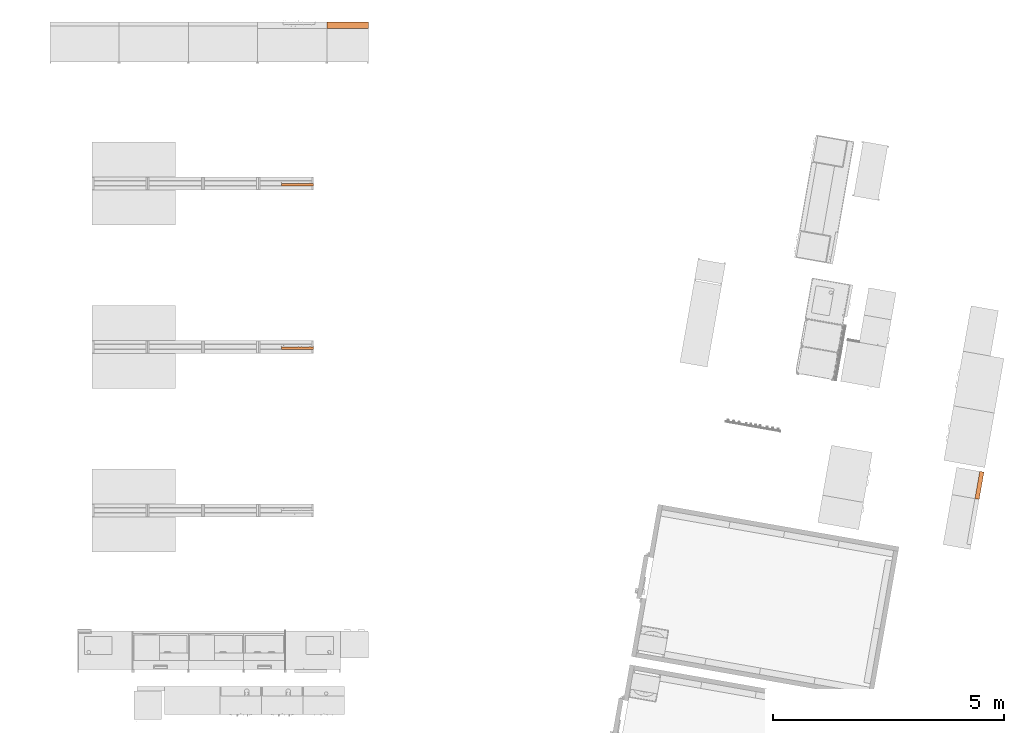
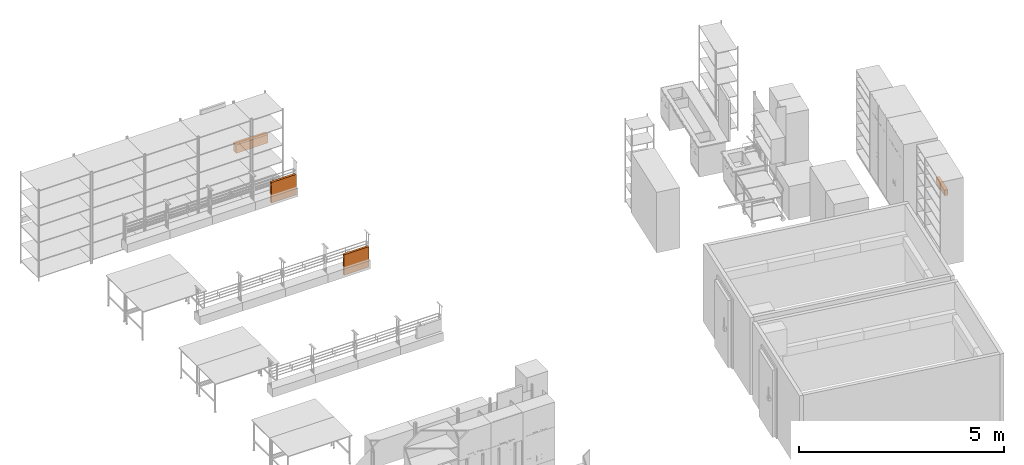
# One storey, part 22 of 32: 4 proxies.
"""IFC2X3 building model written with IfcOpenShell, lengths in metres."""

from ifc_helpers import new_model, entity, si_unit, converted_unit, derived_unit, direction, frame, frame_2d, origin, origin_2d_with_axis, place, context, subcontext, project, spatial, rectangle, extrude, face_set, surface_model, source, transform, mapped, material, material_list, type_object, type_shapes, element, save


model = new_model("IFC2X3")

# Units and contexts
model_context = context("Model", 3, precision=1e-05, world=origin(), true_north=direction((6.12303176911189e-17, 1.0)))
body_context = subcontext(model_context, "Body", "Model", "MODEL_VIEW")
ifc_project = project(units=[si_unit("LENGTHUNIT", "METRE"), si_unit("AREAUNIT", "SQUARE_METRE"), si_unit("VOLUMEUNIT", "CUBIC_METRE"), converted_unit("PLANEANGLEUNIT", "DEGREE", entity("IfcRatioMeasure", 0.0174532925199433), si_unit("PLANEANGLEUNIT", "RADIAN"), dimensions=[0, 0, 0, 0, 0, 0, 0]), si_unit("MASSUNIT", "GRAM", prefix="KILO"), derived_unit("MASSDENSITYUNIT", [(si_unit("MASSUNIT", "GRAM", prefix="KILO"), 1), (si_unit("LENGTHUNIT", "METRE"), -3)]), derived_unit("MOMENTOFINERTIAUNIT", [(si_unit("LENGTHUNIT", "METRE"), 4)]), si_unit("TIMEUNIT", "SECOND"), si_unit("FREQUENCYUNIT", "HERTZ"), si_unit("THERMODYNAMICTEMPERATUREUNIT", "DEGREE_CELSIUS"), derived_unit("THERMALTRANSMITTANCEUNIT", [(si_unit("MASSUNIT", "GRAM", prefix="KILO"), 1), (si_unit("THERMODYNAMICTEMPERATUREUNIT", "KELVIN"), -1), (si_unit("TIMEUNIT", "SECOND"), -3)]), derived_unit("VOLUMETRICFLOWRATEUNIT", [(si_unit("LENGTHUNIT", "METRE"), 3), (si_unit("TIMEUNIT", "SECOND"), -1)]), si_unit("ELECTRICCURRENTUNIT", "AMPERE"), si_unit("ELECTRICVOLTAGEUNIT", "VOLT"), si_unit("POWERUNIT", "WATT"), si_unit("FORCEUNIT", "NEWTON", prefix="KILO"), si_unit("ILLUMINANCEUNIT", "LUX"), si_unit("LUMINOUSFLUXUNIT", "LUMEN"), si_unit("LUMINOUSINTENSITYUNIT", "CANDELA"), derived_unit("USERDEFINED", [(si_unit("MASSUNIT", "GRAM", prefix="KILO"), -1), (si_unit("LENGTHUNIT", "METRE"), -2), (si_unit("TIMEUNIT", "SECOND"), 3), (si_unit("LUMINOUSFLUXUNIT", "LUMEN"), 1)]), derived_unit("LINEARVELOCITYUNIT", [(si_unit("LENGTHUNIT", "METRE"), 1), (si_unit("TIMEUNIT", "SECOND"), -1)]), si_unit("PRESSUREUNIT", "PASCAL"), derived_unit("USERDEFINED", [(si_unit("LENGTHUNIT", "METRE"), -2), (si_unit("MASSUNIT", "GRAM", prefix="KILO"), 1), (si_unit("TIMEUNIT", "SECOND"), -2)]), derived_unit("LINEARFORCEUNIT", [(si_unit("MASSUNIT", "GRAM", prefix="KILO"), 1), (si_unit("LENGTHUNIT", "METRE"), 1), (si_unit("TIMEUNIT", "SECOND"), -2), (si_unit("LENGTHUNIT", "METRE"), -1)]), derived_unit("PLANARFORCEUNIT", [(si_unit("MASSUNIT", "GRAM", prefix="KILO"), 1), (si_unit("LENGTHUNIT", "METRE"), 1), (si_unit("TIMEUNIT", "SECOND"), -2), (si_unit("LENGTHUNIT", "METRE"), -2)])], contexts=[model_context])

# Site, building, storey
site_placement = place(None, origin())
site = spatial("IfcSite", under=ifc_project, at=site_placement, Name="Default", CompositionType="ELEMENT")
building_placement = place(site_placement, origin())
building = spatial("IfcBuilding", under=site, at=building_placement, CompositionType="ELEMENT")
storey_placement = place(building_placement, origin())
storey = spatial("IfcBuildingStorey", under=building, at=storey_placement, Name="00 EG", CompositionType="ELEMENT", Elevation=0.0)

# Proxies
ifc_material_1 = material(Name="dh_Weiß")
building_element_proxy_type_1 = type_object("IfcBuildingElementProxyType", Name="dh_Einzel_ Elektrokanal:EK 60", PredefinedType="NOTDEFINED", material=ifc_material_1)
shared_shape_1 = source(origin(), body_context, "Body", "SweptSolid", [
    extrude(rectangle(XDim=0.600000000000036, YDim=0.093, at=frame_2d((-1.41553435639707e-15, -1.73472347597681e-17), x_axis=(1.0, 0.0))), frame((-0.299999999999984, 0.2535, 1.24999999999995)), (0.0, 0.0, 1.0), 0.00499999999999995),
    extrude(rectangle(XDim=0.093, YDim=0.600000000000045, at=frame_2d((0.0155, -2.72004641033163e-15), x_axis=(1.0, 0.0))), frame((-0.299999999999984, 0.269, 1.40999999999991), z_axis=(0.0, 0.0, 1.0), x_axis=(0.0, -1.0, 0.0)), (0.0, 0.0, 1.0), 0.00499999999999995),
    extrude(rectangle(XDim=0.6, YDim=0.093, at=frame_2d((0.0, 1.73472347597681e-17), x_axis=(1.0, 0.0))), frame((-0.3, 0.2535, 1.25499999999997), z_axis=(0.0, 0.0, 1.0), x_axis=(-1.0, 0.0, 0.0)), (0.0, 0.0, 1.0), 0.154999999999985),
])
type_shapes(building_element_proxy_type_1, [shared_shape_1])
proxy_1_placement = place(storey_placement, frame((29.9888502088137, 13.9513028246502, 0.0), z_axis=(0.0, 0.0, 1.0), x_axis=(-0.173648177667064, -0.984807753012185, 0.0)))
element("IfcBuildingElementProxy", 1, at=proxy_1_placement, inside=storey, type_object=building_element_proxy_type_1, material=ifc_material_1, Name="dh_Einzel_ Elektrokanal:EK 60", ObjectType="dh_Einzel_ Elektrokanal:EK 60", context=body_context, shape_type="MappedRepresentation", body=[
    mapped(shared_shape_1, transform((0.0, 0.0, 0.0), scale=1.0)),
])
ifc_material_2 = material(Name="dh_EZ blau")
ifc_material_list_1 = material_list([ifc_material_2, ifc_material_1])
ifc_material_3 = material(Name="dh_Blau")
ifc_material_list_2 = material_list([ifc_material_1, ifc_material_2, ifc_material_3])
building_element_proxy_type_2 = type_object("IfcBuildingElementProxyType", Name="dh_Einzel_ MEK:MEK 90", PredefinedType="NOTDEFINED", material=ifc_material_list_2)
shared_shape_2 = source(origin(), body_context, "Body", "SweptSolid", [
    extrude(rectangle(XDim=0.06, YDim=0.0299999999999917, at=origin_2d_with_axis()), frame((0.285000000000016, 0.33, 1.25499999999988), z_axis=(0.0, 0.0, 1.0), x_axis=(0.0, 1.0, 0.0)), (0.0, 0.0, 1.0), 0.240000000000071),
    extrude(rectangle(XDim=0.06, YDim=0.0299999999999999, at=origin_2d_with_axis()), frame((-0.584999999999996, 0.33, 1.25499999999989), z_axis=(0.0, 0.0, 1.0), x_axis=(0.0, 1.0, 0.0)), (0.0, 0.0, 1.0), 0.240000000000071),
    extrude(rectangle(XDim=0.06, YDim=0.900000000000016, at=origin_2d_with_axis()), frame((-0.149999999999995, 0.33, 1.49499999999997), z_axis=(0.0, 0.0, 1.0), x_axis=(0.0, 1.0, 0.0)), (0.0, 0.0, 1.0), 0.00499999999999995),
    extrude(rectangle(XDim=0.900000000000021, YDim=0.14, at=frame_2d((-2.55351295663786e-15, -0.00333333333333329), x_axis=(1.0, 0.0))), frame((-0.149999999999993, 0.293333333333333, 1.24999999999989)), (0.0, 0.0, 1.0), 0.00499999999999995),
    extrude(rectangle(XDim=0.08, YDim=0.900000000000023, at=frame_2d((0.0133333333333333, 0.0), x_axis=(1.0, 0.0))), frame((-0.149999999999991, 0.273333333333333, 1.49499999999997), z_axis=(0.0, 0.0, 1.0), x_axis=(0.0, -1.0, 0.0)), (0.0, 0.0, 1.0), 0.00499999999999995),
    extrude(rectangle(XDim=0.9, YDim=0.08, at=origin_2d_with_axis()), frame((-0.15, 0.26, 1.25499999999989), z_axis=(0.0, 0.0, 1.0), x_axis=(-1.0, 0.0, 0.0)), (0.0, 0.0, 1.0), 0.24000000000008),
])
type_shapes(building_element_proxy_type_2, [shared_shape_2])
proxy_2_placement = place(storey_placement, frame((16.7500000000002, 23.8839999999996, 0.0)))
element("IfcBuildingElementProxy", 2, at=proxy_2_placement, inside=storey, type_object=building_element_proxy_type_2, material=ifc_material_list_1, Name="dh_Einzel_ MEK:MEK 90", ObjectType="dh_Einzel_ MEK:MEK 90", context=body_context, shape_type="MappedRepresentation", body=[
    mapped(shared_shape_2, transform((0.0, 0.0, 0.0), scale=1.0)),
])
ifc_material_4 = material(Name="dh_Stellfläche")
building_element_proxy_type_3 = type_object("IfcBuildingElementProxyType", Name="dh_Gerät_Stellfläche Bestand:Nutzergerät", PredefinedType="NOTDEFINED", material=ifc_material_4)
shared_shape_3 = source(origin(), body_context, "Body", "SurfaceModel", [
    surface_model("IfcFaceBasedSurfaceModel", [(-0.355113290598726, -0.0453817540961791, 0.615000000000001), (-0.35670056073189, -0.0470458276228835, 0.615000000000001), (-0.346946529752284, -0.0567998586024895, 0.615000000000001), (-0.332277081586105, -0.0616384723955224, 0.615000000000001), (-0.312948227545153, -0.0616384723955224, 0.615000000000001), (-0.298278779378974, -0.0567998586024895, 0.615000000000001), (-0.288166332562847, -0.0466618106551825, 0.615000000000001), (-0.288166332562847, -0.0314547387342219, 0.615000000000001), (-0.29308174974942, -0.0214446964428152, 0.615000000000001), (-0.298073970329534, -0.0163500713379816, 0.615000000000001), (-0.30790480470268, -0.0115114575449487, 0.615000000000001), (-0.336450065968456, -0.00188543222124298, 0.615000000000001), (-0.345692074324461, 0.00295318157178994, 0.615000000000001), (-0.350197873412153, 0.00745898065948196, 0.615000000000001), (-0.354857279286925, 0.0166497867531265, 0.615000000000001), (-0.354857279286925, 0.0255845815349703, 0.615000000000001), (-0.345820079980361, 0.0347241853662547, 0.615000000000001), (-0.331944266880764, 0.0393579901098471, 0.615000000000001), (-0.313204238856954, 0.0393579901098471, 0.615000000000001), (-0.299328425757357, 0.0347241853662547, 0.615000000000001), (-0.290112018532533, 0.0252005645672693, 0.615000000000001), (-0.288447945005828, 0.0268646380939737, 0.615000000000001), (-0.298278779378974, 0.0366186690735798, 0.615000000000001), (-0.312948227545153, 0.041585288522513, 0.615000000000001), (-0.332277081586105, 0.041585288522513, 0.615000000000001), (-0.346946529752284, 0.0366186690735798, 0.615000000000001), (-0.356982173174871, 0.0264550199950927, 0.615000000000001), (-0.356982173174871, 0.016112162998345, 0.615000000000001), (-0.352117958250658, 0.00610212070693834, 0.615000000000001), (-0.347074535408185, 0.00100749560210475, 0.615000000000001), (-0.337243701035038, -0.00383111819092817, 0.615000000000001), (-0.308698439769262, -0.0134571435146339, 0.615000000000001), (-0.299456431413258, -0.0182957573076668, 0.615000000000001), (-0.294950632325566, -0.0228015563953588, 0.615000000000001), (-0.290368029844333, -0.0320691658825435, 0.615000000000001), (-0.290368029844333, -0.0457657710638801, 0.615000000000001), (-0.299328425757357, -0.0549053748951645, 0.615000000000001), (-0.313204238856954, -0.0595647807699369, 0.615000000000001), (-0.331944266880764, -0.0595647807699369, 0.615000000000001), (-0.345820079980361, -0.0549053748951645, 0.615000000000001), (-0.230691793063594, -0.0616384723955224, 0.615000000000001), (-0.230691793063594, -0.0595647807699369, 0.615000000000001), (-0.239908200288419, -0.0595647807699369, 0.615000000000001), (-0.248740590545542, -0.055084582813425, 0.615000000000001), (-0.253399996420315, -0.0413879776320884, 0.615000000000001), (-0.253399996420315, 0.00533408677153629, 0.615000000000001), (-0.235402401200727, 0.00533408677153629, 0.615000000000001), (-0.235402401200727, 0.00745898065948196, 0.615000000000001), (-0.253399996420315, 0.00745898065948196, 0.615000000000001), (-0.253399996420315, 0.0399468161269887, 0.615000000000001), (-0.25557609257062, 0.0399468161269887, 0.615000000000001), (-0.25557609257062, 0.00745898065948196, 0.615000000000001), (-0.268735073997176, 0.00745898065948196, 0.615000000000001), (-0.268735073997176, 0.00533408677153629, 0.615000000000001), (-0.25557609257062, 0.00533408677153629, 0.615000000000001), (-0.25557609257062, -0.0416439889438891, 0.615000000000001), (-0.250660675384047, -0.0566974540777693, 0.615000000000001), (-0.2404458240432, -0.0616384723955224, 0.615000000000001), (-0.201327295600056, -0.0599999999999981, 0.615000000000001), (-0.19920240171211, -0.0599999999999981, 0.615000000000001), (-0.19920240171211, 0.00666534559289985, 0.615000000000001), (-0.201327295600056, 0.00666534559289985, 0.615000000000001), (-0.173294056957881, -0.0922318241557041, 0.615000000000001), (-0.173294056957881, -0.0944079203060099, 0.615000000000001), (-0.163744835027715, -0.0944079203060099, 0.615000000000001), (-0.153581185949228, -0.0893644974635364, 0.615000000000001), (-0.148665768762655, -0.0744390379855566, 0.615000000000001), (-0.148665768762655, 0.00651173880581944, 0.615000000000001), (-0.150867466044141, 0.00651173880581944, 0.615000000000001), (-0.150867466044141, -0.0741574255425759, 0.615000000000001), (-0.155501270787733, -0.087700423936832, 0.615000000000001), (-0.164333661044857, -0.0922318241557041, 0.615000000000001), (-0.100049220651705, -0.0875980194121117, 0.615000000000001), (-0.101175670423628, -0.0895181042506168, 0.615000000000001), (-0.0913448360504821, -0.0944079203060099, 0.615000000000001), (-0.0765473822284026, -0.0944079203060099, 0.615000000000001), (-0.0666397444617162, -0.0895181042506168, 0.615000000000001), (-0.0615963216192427, -0.0843466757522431, 0.615000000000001), (-0.0566809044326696, -0.069728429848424, 0.615000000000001), (-0.0566809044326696, 0.00615332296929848, 0.615000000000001), (-0.0588826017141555, 0.00615332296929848, 0.615000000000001), (-0.0588826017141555, -0.00552079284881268, 0.615000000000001), (-0.0666397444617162, 0.0023387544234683, 0.615000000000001), (-0.0765473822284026, 0.00717736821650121, 0.615000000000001), (-0.0913448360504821, 0.00717736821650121, 0.615000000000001), (-0.101303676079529, 0.0023387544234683, 0.615000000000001), (-0.111057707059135, -0.00756888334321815, 0.615000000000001), (-0.115973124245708, -0.0221871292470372, 0.615000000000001), (-0.115973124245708, -0.0319923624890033, 0.615000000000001), (-0.111057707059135, -0.0465850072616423, 0.615000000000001), (-0.101303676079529, -0.0564926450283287, 0.615000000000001), (-0.0913448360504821, -0.0612544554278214, 0.615000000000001), (-0.0765473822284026, -0.0612544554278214, 0.615000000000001), (-0.0666397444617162, -0.0564926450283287, 0.615000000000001), (-0.0588826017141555, -0.0485818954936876, 0.615000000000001), (-0.0588826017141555, -0.0694724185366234, 0.615000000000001), (-0.0634652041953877, -0.0832970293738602, 0.615000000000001), (-0.0679710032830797, -0.0875980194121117, 0.615000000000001), (-0.077059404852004, -0.0922318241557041, 0.615000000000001), (-0.0908072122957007, -0.0922318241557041, 0.615000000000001), (-0.0588826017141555, -0.0452537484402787, 0.615000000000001), (-0.0679710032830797, -0.0542909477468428, 0.615000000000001), (-0.077059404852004, -0.0588735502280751, 0.615000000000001), (-0.0908072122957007, -0.0588735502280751, 0.615000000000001), (-0.099921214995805, -0.0542909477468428, 0.615000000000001), (-0.10921442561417, -0.0451257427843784, 0.615000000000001), (-0.113797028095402, -0.0312499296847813, 0.615000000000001), (-0.113797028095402, -0.0220079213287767, 0.615000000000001), (-0.10921442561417, -0.00813210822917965, 0.615000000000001), (-0.099921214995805, 0.000956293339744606, 0.615000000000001), (-0.0908072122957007, 0.00561569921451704, 0.615000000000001), (-0.077059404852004, 0.00561569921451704, 0.615000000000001), (-0.0679710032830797, 0.000956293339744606, 0.615000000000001), (-0.0588826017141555, -0.00800410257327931, 0.615000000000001), (-0.0178183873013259, -0.0599999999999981, 0.615000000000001), (-0.0156934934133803, -0.0599999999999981, 0.615000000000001), (-0.0156934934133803, -0.0413367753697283, 0.615000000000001), (0.00230410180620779, -0.0235439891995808, 0.615000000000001), (0.0347919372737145, -0.0599999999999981, 0.615000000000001), (0.0364560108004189, -0.0587455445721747, 0.615000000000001), (0.00376336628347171, -0.0214958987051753, 0.615000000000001), (0.0316685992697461, 0.00625572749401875, 0.615000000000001), (0.0300813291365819, 0.00784299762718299, 0.615000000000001), (-0.0156934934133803, -0.0379574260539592, 0.615000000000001), (-0.0156934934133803, 0.0399468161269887, 0.615000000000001), (-0.0178183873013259, 0.0399468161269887, 0.615000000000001), (0.120146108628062, -0.0469178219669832, 0.615000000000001), (0.125061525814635, -0.0322227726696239, 0.615000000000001), (0.125061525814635, -0.0223663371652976, 0.615000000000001), (0.120146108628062, -0.00767128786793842, 0.615000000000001), (0.110315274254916, 0.00231315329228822, 0.615000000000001), (0.10040763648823, 0.00717736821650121, 0.615000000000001), (0.0856101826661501, 0.00717736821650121, 0.615000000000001), (0.0756513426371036, 0.00231315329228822, 0.615000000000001), (0.0658973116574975, -0.00767128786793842, 0.615000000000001), (0.0609818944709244, -0.0223663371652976, 0.615000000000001), (0.0609818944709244, -0.0322227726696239, 0.615000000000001), (0.0658973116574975, -0.0469178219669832, 0.615000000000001), (0.0756513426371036, -0.0568510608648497, 0.615000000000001), (0.0856101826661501, -0.0616384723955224, 0.615000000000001), (0.10040763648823, -0.0616384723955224, 0.615000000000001), (0.110315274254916, -0.0568510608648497, 0.615000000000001), (0.118200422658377, -0.0451257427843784, 0.615000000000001), (0.108984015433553, -0.0542909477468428, 0.615000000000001), (0.0998956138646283, -0.0588735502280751, 0.615000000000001), (0.0861478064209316, -0.0588735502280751, 0.615000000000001), (0.0770338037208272, -0.0542909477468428, 0.615000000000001), (0.0677405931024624, -0.0451257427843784, 0.615000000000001), (0.0631579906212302, -0.0312499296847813, 0.615000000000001), (0.0631579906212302, -0.0220079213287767, 0.615000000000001), (0.0677405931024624, -0.00813210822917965, 0.615000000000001), (0.0770338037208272, 0.000956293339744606, 0.615000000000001), (0.0861478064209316, 0.00561569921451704, 0.615000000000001), (0.0998956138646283, 0.00561569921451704, 0.615000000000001), (0.108984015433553, 0.000956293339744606, 0.615000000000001), (0.118200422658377, -0.00813210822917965, 0.615000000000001), (0.12285982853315, -0.0220079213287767, 0.615000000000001), (0.12285982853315, -0.0312499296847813, 0.615000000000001), (0.159136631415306, -0.0599999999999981, 0.615000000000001), (0.161261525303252, -0.0599999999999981, 0.615000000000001), (0.161261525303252, -0.0413367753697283, 0.615000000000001), (0.17925912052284, -0.0235439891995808, 0.615000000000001), (0.211746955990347, -0.0599999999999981, 0.615000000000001), (0.213411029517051, -0.0587455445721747, 0.615000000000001), (0.180718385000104, -0.0214958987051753, 0.615000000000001), (0.208623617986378, 0.00625572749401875, 0.615000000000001), (0.207036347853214, 0.00784299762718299, 0.615000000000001), (0.161261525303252, -0.0379574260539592, 0.615000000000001), (0.161261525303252, 0.0399468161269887, 0.615000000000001), (0.159136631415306, 0.0399468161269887, 0.615000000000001), (0.296973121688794, -0.0471994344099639, 0.615000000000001), (0.29530904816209, -0.0455353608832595, 0.615000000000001), (0.285939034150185, -0.0549821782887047, 0.615000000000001), (0.276850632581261, -0.0595647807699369, 0.615000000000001), (0.263102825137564, -0.0595647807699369, 0.615000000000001), (0.25398882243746, -0.0549821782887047, 0.615000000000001), (0.244695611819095, -0.0457913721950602, 0.615000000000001), (0.240113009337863, -0.0318899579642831, 0.615000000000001), (0.240113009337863, -0.0236463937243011, 0.615000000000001), (0.297229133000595, -0.0236463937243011, 0.615000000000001), (0.297229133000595, -0.0127147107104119, 0.615000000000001), (0.292313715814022, -0.00273026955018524, 0.615000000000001), (0.287270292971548, 0.00231315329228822, 0.615000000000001), (0.277362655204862, 0.00717736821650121, 0.615000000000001), (0.262565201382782, 0.00717736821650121, 0.615000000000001), (0.252606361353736, 0.00231315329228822, 0.615000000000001), (0.24285233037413, -0.00767128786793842, 0.615000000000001), (0.237936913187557, -0.0223663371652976, 0.615000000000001), (0.237936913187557, -0.0322227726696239, 0.615000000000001), (0.24285233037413, -0.0469178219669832, 0.615000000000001), (0.252606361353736, -0.0568510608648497, 0.615000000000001), (0.262565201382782, -0.0616384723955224, 0.615000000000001), (0.277362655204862, -0.0616384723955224, 0.615000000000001), (0.287270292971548, -0.0568510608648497, 0.615000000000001), (0.240522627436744, -0.0214446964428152, 0.615000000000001), (0.244695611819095, -0.00874653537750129, 0.615000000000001), (0.25398882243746, 0.000341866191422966, 0.615000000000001), (0.263102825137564, 0.0050012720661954, 0.615000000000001), (0.276850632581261, 0.0050012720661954, 0.615000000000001), (0.285939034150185, 0.000341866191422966, 0.615000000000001), (0.290444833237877, -0.00416393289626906, 0.615000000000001), (0.295027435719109, -0.0132779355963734, 0.615000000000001), (0.295027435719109, -0.0214446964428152, 0.615000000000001), (0.331176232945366, -0.0599999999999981, 0.615000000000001), (0.333301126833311, -0.0599999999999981, 0.615000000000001), (0.333301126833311, -0.0223407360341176, 0.615000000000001), (0.337960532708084, -0.00856732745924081, 0.615000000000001), (0.347202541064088, 0.000469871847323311, 0.615000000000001), (0.356342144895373, 0.00507807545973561, 0.615000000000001), (0.37037156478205, 0.00507807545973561, 0.615000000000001), (0.37037156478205, 0.00717736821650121, 0.615000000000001), (0.355753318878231, 0.00717736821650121, 0.615000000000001), (0.345871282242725, 0.00236435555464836, 0.615000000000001), (0.336040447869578, -0.00751768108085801, 0.615000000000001), (0.333301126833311, -0.0156076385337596, 0.615000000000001), (0.333301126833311, 0.00630692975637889, 0.615000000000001), (0.331176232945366, 0.00630692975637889, 0.615000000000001), (-0.149792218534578, 0.0291175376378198, 0.615000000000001), (-0.143494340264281, 0.0353386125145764, 0.615000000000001), (-0.149792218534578, 0.041585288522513, 0.615000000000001), (-0.156038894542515, 0.0353386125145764, 0.615000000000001), (-0.149792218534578, 0.0319592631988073, 0.615000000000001), (-0.153043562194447, 0.035210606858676, 0.615000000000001), (-0.149792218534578, 0.0384875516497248, 0.615000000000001), (-0.146464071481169, 0.035210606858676, 0.615000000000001), (-0.200252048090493, 0.0291175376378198, 0.615000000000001), (-0.194005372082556, 0.0353386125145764, 0.615000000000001), (-0.200252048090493, 0.041585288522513, 0.615000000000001), (-0.206498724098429, 0.0353386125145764, 0.615000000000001), (-0.200252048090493, 0.0319592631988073, 0.615000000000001), (-0.203503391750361, 0.035210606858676, 0.615000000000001), (-0.200252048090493, 0.0384875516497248, 0.615000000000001), (-0.197000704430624, 0.035210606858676, 0.615000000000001), (0.35, 0.0, 0.61), (0.35, -0.06, 0.61), (-0.35, -0.06, 0.61), (-0.35, 0.0, 0.61), (0.35, 0.0, 0.0), (0.35, -0.06, 0.0), (-0.35, -0.06, 0.0), (-0.35, 0.0, 0.0)], [face_set([[[0, 1, 2, 3, 4, 5, 6, 7, 8, 9, 10, 11, 12, 13, 14, 15, 16, 17, 18, 19, 20, 21, 22, 23, 24, 25, 26, 27, 28, 29, 30, 31, 32, 33, 34, 35, 36, 37, 38, 39]]]), face_set([[[40, 41, 42, 43, 44, 45, 46, 47, 48, 49, 50, 51, 52, 53, 54, 55, 56, 57]]]), face_set([[[58, 59, 60, 61]]]), face_set([[[62, 63, 64, 65, 66, 67, 68, 69, 70, 71]]]), face_set([[[72, 73, 74, 75, 76, 77, 78, 79, 80, 81, 82, 83, 84, 85, 86, 87, 88, 89, 90, 91, 92, 93, 94, 95, 96, 97, 98, 99], [100, 101, 102, 103, 104, 105, 106, 107, 108, 109, 110, 111, 112, 113]]]), face_set([[[114, 115, 116, 117, 118, 119, 120, 121, 122, 123, 124, 125]]]), face_set([[[126, 127, 128, 129, 130, 131, 132, 133, 134, 135, 136, 137, 138, 139, 140, 141], [142, 143, 144, 145, 146, 147, 148, 149, 150, 151, 152, 153, 154, 155, 156, 157]]]), face_set([[[158, 159, 160, 161, 162, 163, 164, 165, 166, 167, 168, 169]]]), face_set([[[170, 171, 172, 173, 174, 175, 176, 177, 178, 179, 180, 181, 182, 183, 184, 185, 186, 187, 188, 189, 190, 191, 192, 193], [194, 195, 196, 197, 198, 199, 200, 201, 202]]]), face_set([[[203, 204, 205, 206, 207, 208, 209, 210, 211, 212, 213, 214, 215, 216]]]), face_set([[[217, 218, 219, 220], [221, 222, 223, 224]]]), face_set([[[225, 226, 227, 228], [229, 230, 231, 232]]]), face_set([[[233, 234, 235, 236]], [[237, 238, 239, 240]], [[236, 233, 237, 240]], [[235, 236, 240, 239]], [[234, 238, 239, 235]], [[233, 234, 238, 237]]])]),
])
type_shapes(building_element_proxy_type_3, [shared_shape_3])
for number, where, name in (
    (3, (15.5179999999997, 17.2041499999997, 2.19), "dh_Gerät_Stellfläche Bestand:Nutzergerät"),
    (4, (15.5179999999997, 20.7470749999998, 2.19), "dh_Gerät_Stellfläche Bestand:Nutzergerät"),
):
    element("IfcBuildingElementProxy", number, at=place(storey_placement, frame(where)), inside=storey, type_object=building_element_proxy_type_3, material=ifc_material_4, Name=name, ObjectType="dh_Gerät_Stellfläche Bestand:Nutzergerät", context=body_context, shape_type="MappedRepresentation", body=[
        mapped(shared_shape_3, transform((0.0, 0.0, 0.0), scale=1.0)),
    ])

save(model, "model.ifc")
